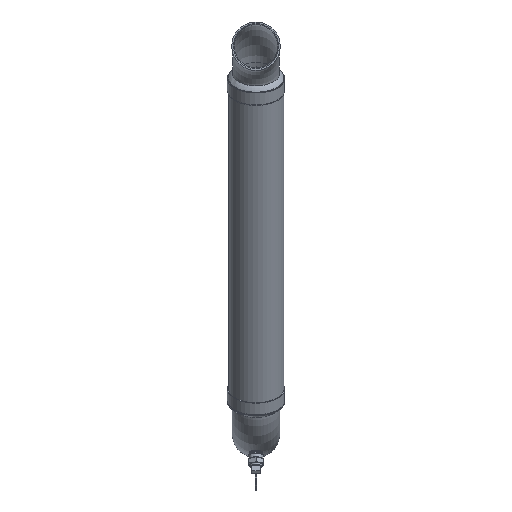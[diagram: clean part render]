
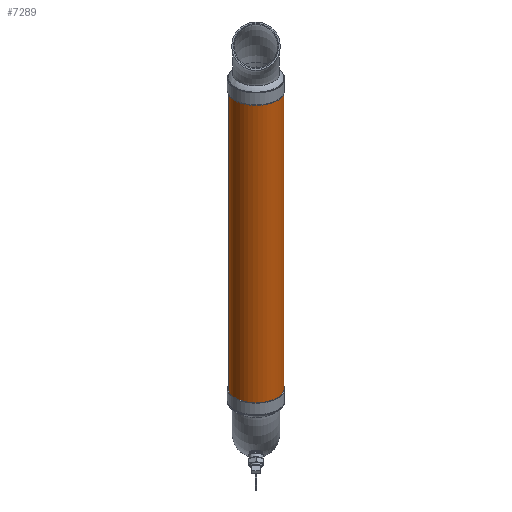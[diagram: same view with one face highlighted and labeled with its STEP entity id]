
A CAD part, front view. The second image highlights one B-rep face of the part: STEP entity #7289.
In plain terms, the highlighted cylindrical face has radius 48.92 mm (diameter 97.841 mm), a full revolution.
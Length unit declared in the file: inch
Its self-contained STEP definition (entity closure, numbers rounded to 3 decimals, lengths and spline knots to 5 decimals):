
#7262=CARTESIAN_POINT('',(0.0,0.0,0.0));
#7263=DIRECTION('',(0.0,0.0,1.0));
#7264=DIRECTION('',(-1.0,0.0,0.0));
#7265=AXIS2_PLACEMENT_3D('',#7262,#7263,#7264);
#7266=CYLINDRICAL_SURFACE('',#7265,1.926);
#7267=CARTESIAN_POINT('',(1.926,0.,25.744));
#7268=VERTEX_POINT('',#7267);
#7269=CARTESIAN_POINT('',(0.0,0.0,25.744));
#7270=DIRECTION('',(0.0,0.0,-1.0));
#7271=DIRECTION('',(-1.0,0.0,0.0));
#7272=AXIS2_PLACEMENT_3D('',#7269,#7270,#7271);
#7273=CIRCLE('',#7272,1.926);
#7274=EDGE_CURVE('',#7268,#7268,#7273,.T.);
#7275=ORIENTED_EDGE('',*,*,#7274,.T.);
#7276=EDGE_LOOP('',(#7275));
#7277=FACE_OUTER_BOUND('',#7276,.T.);
#7278=CARTESIAN_POINT('',(1.926,0.,0.0));
#7279=VERTEX_POINT('',#7278);
#7280=CARTESIAN_POINT('',(0.0,0.0,0.0));
#7281=DIRECTION('',(0.0,0.0,-1.0));
#7282=DIRECTION('',(-1.0,0.0,0.0));
#7283=AXIS2_PLACEMENT_3D('',#7280,#7281,#7282);
#7284=CIRCLE('',#7283,1.926);
#7285=EDGE_CURVE('',#7279,#7279,#7284,.T.);
#7286=ORIENTED_EDGE('',*,*,#7285,.F.);
#7287=EDGE_LOOP('',(#7286));
#7288=FACE_BOUND('',#7287,.T.);
#7289=ADVANCED_FACE('',(#7277,#7288),#7266,.T.);
